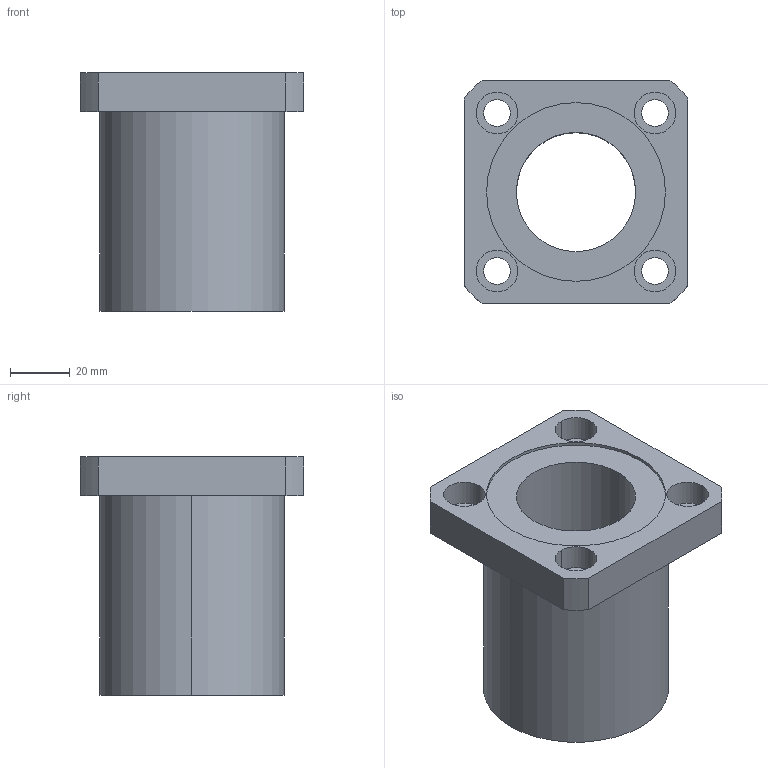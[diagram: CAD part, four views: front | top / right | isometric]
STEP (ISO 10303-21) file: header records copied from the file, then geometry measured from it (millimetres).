
FILE_DESCRIPTION((''),'2;1');
FILE_NAME('C:\Documents and Settings\ｿﾀﾀ蠑ｷ1\ｹﾙﾅﾁ ﾈｭｸ饅\ｺﾎﾇｰﾆﾄﾀﾏ\ﾁｦﾇｰ\LMEK__UU\LMEK40UU.stp','2005-06-15T10:59:30',('ｿﾀﾀ蠑ｷ1'),(''),'Autodesk Inventor 9','Autodesk Inventor 9','');
FILE_SCHEMA(('AUTOMOTIVE_DESIGN { 1 0 10303 214 1 1 1 1 }'));
Length unit declared in the file: millimetre
Products named in the file (1): LMEK__(L)
Bounding box: 75 x 75 x 80 mm (x, y, z)
Volume: 164445.1 mm3; surface area: 37052.1 mm2
Topology: 1 solids, 1 shells, 41 faces, 96 edges, 64 vertices
Faces by surface type: bspline 20, cylinder 12, plane 9
Entity records: 1457 total; most frequent: CARTESIAN_POINT 486, DIRECTION 196, ORIENTED_EDGE 192, EDGE_CURVE 96, AXIS2_PLACEMENT_3D 78, VERTEX_POINT 64, EDGE_LOOP 58, CIRCLE 56
